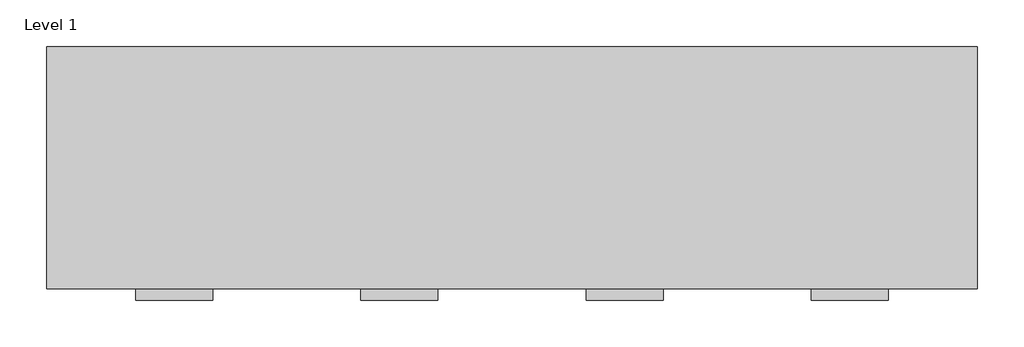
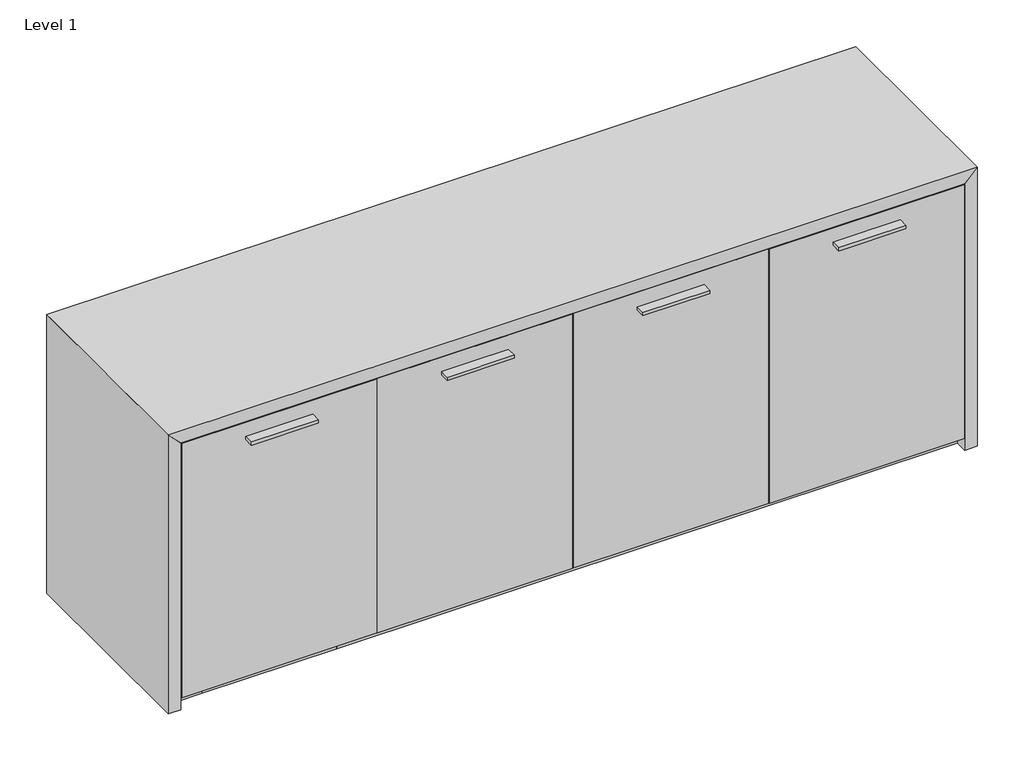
# One storey, incomplete: 18 proxies.
"""IFC4 building model written with IfcOpenShell, lengths in millimetres."""

import ifcopenshell
import ifcopenshell.guid

model = None  # the IFC model being written
_history = None  # IfcOwnerHistory: only IFC2X3 demands one
_inside = {}  # id of a spatial element -> (the spatial element, [elements in it])
_under = {}  # id of a project, library or spatial element -> (it, [spatial elements below it])
_declared = {}  # id of a project -> (the project, [libraries it declares])
_typed = {}  # id of a type object -> (the type object, [elements of that type])
_made_of = {}  # id of a material, layer set ... -> (it, [elements and type objects made of it])


def new_model(schema):
    """Start an empty IFC model of exactly this schema.

    Asked for "IFC4X3", IfcOpenShell would pick the latest addendum, in which some entities
    have other attributes; the version numbers below select the first issue.
    IFC2X3 requires an IfcOwnerHistory on every rooted entity: one is made here for all.
    """
    global model, _history
    if schema == "IFC4X3":
        model = ifcopenshell.file(schema_version=(4, 3, 0, 0))
    else:
        model = ifcopenshell.file(schema=schema)
    _inside.clear()
    _under.clear()
    _declared.clear()
    _typed.clear()
    _made_of.clear()
    _history = None
    if model.schema == "IFC2X3":
        org = make("IfcOrganization", Name="unknown")
        user = make(
            "IfcPersonAndOrganization",
            ThePerson=make("IfcPerson", FamilyName="unknown"),
            TheOrganization=org,
        )
        app = make(
            "IfcApplication",
            ApplicationDeveloper=org,
            Version="unknown",
            ApplicationFullName="unknown",
            ApplicationIdentifier="unknown",
        )
        _history = make(
            "IfcOwnerHistory",
            OwningUser=user,
            OwningApplication=app,
            ChangeAction="ADDED",
            CreationDate=0,
        )
    return model


def make(cls, **values):
    """One entity of the class cls with the attributes given. An attribute that is None is left unset."""
    return model.create_entity(
        cls, **{name: value for name, value in values.items() if value is not None}
    )


def rooted(cls, **values):
    """An entity with a GlobalId (a new one), such as an element, a storey or a relation."""
    return make(cls, GlobalId=ifcopenshell.guid.new(), OwnerHistory=_history, **values)


def si_unit(unit_type, name, prefix=None):
    """IfcSIUnit, for example si_unit("LENGTHUNIT", "METRE", prefix="MILLI")."""
    return make("IfcSIUnit", UnitType=unit_type, Prefix=prefix, Name=name)


def assignment(units):
    """IfcUnitAssignment: the units of a project."""
    return None if units is None else make("IfcUnitAssignment", Units=units)


def point(xyz):
    """IfcCartesianPoint."""
    return None if xyz is None else make("IfcCartesianPoint", Coordinates=xyz)


def direction(xyz):
    """IfcDirection."""
    return None if xyz is None else make("IfcDirection", DirectionRatios=xyz)


def frame(location, z_axis=None, x_axis=None):
    """IfcAxis2Placement3D, a coordinate frame: its origin and axes. An axis left out is left unset."""
    return make(
        "IfcAxis2Placement3D",
        Location=point(location),
        Axis=direction(z_axis),
        RefDirection=direction(x_axis),
    )


def origin():
    """The frame at (0, 0, 0) with its axes left unset."""
    return frame((0.0, 0.0, 0.0))


def origin_with_axes():
    """The frame at (0, 0, 0) with the z axis (0, 0, 1) and the x axis (1, 0, 0) written out."""
    return frame((0.0, 0.0, 0.0), z_axis=(0.0, 0.0, 1.0), x_axis=(1.0, 0.0, 0.0))


def place(relative_to, where):
    """IfcLocalPlacement: puts the frame where relative to a parent placement (None: the world)."""
    return make(
        "IfcLocalPlacement", PlacementRelTo=relative_to, RelativePlacement=where
    )


def context(
    kind, dimensions, precision=None, world=None, true_north=None, identifier=None
):
    """IfcGeometricRepresentationContext, for example the 3D "Model" context."""
    return make(
        "IfcGeometricRepresentationContext",
        ContextIdentifier=identifier,
        ContextType=kind,
        CoordinateSpaceDimension=dimensions,
        Precision=precision,
        WorldCoordinateSystem=world,
        TrueNorth=true_north,
    )


def project(units=None, contexts=None):
    """IfcProject with its units and contexts."""
    return rooted(
        "IfcProject",
        Name="project",
        RepresentationContexts=contexts,
        UnitsInContext=assignment(units),
    )


def spatial(cls, under=None, at=None, **own):
    """A site, building, storey or space (cls), placed at a placement, below another one or the project."""
    s = rooted(cls, ObjectPlacement=at, **own)
    if under is not None:
        _under.setdefault(under.id(), (under, []))[1].append(s)
    return s


def polyline(points):
    """IfcPolyline through the points."""
    return make("IfcPolyline", Points=[point(p) for p in points])


def outline(outer, holes=None, kind="AREA"):
    """IfcArbitraryClosedProfileDef: a profile drawn as a closed curve; with holes, ...WithVoids."""
    if holes is None:
        return make("IfcArbitraryClosedProfileDef", ProfileType=kind, OuterCurve=outer)
    return make(
        "IfcArbitraryProfileDefWithVoids",
        ProfileType=kind,
        OuterCurve=outer,
        InnerCurves=holes,
    )


def extrude(swept, where, along, depth):
    """IfcExtrudedAreaSolid: the profile swept, set in the frame where, extruded along a direction by depth."""
    return make(
        "IfcExtrudedAreaSolid",
        SweptArea=swept,
        Position=where,
        ExtrudedDirection=direction(along),
        Depth=depth,
    )


def shape(context_of_items, identifier, shape_type, items):
    """IfcShapeRepresentation: the items that make up one representation, for example the "Body"."""
    return make(
        "IfcShapeRepresentation",
        ContextOfItems=context_of_items,
        RepresentationIdentifier=identifier,
        RepresentationType=shape_type,
        Items=items,
    )


def source(mapping_origin, context_of_items, identifier, shape_type, items):
    """IfcRepresentationMap: a shape defined once, which mapped items show again and again."""
    return make(
        "IfcRepresentationMap",
        MappingOrigin=mapping_origin,
        MappedRepresentation=shape(context_of_items, identifier, shape_type, items),
    )


def transform(
    local_origin,
    x_axis=None,
    y_axis=None,
    z_axis=None,
    scale=None,
    scale2=None,
    scale3=None,
    uniform=True,
):
    """IfcCartesianTransformationOperator3D, or its non-uniform kind. x_axis, y_axis, z_axis: its Axis1, 2, 3."""
    if uniform:
        return make(
            "IfcCartesianTransformationOperator3D",
            Axis1=direction(x_axis),
            Axis2=direction(y_axis),
            LocalOrigin=point(local_origin),
            Scale=scale,
            Axis3=direction(z_axis),
        )
    return make(
        "IfcCartesianTransformationOperator3DnonUniform",
        Axis1=direction(x_axis),
        Axis2=direction(y_axis),
        LocalOrigin=point(local_origin),
        Scale=scale,
        Axis3=direction(z_axis),
        Scale2=scale2,
        Scale3=scale3,
    )


def mapped(mapping_source, mapping_target):
    """IfcMappedItem: shows the shape of a source again, moved by a transform."""
    return make(
        "IfcMappedItem", MappingSource=mapping_source, MappingTarget=mapping_target
    )


def made_of(thing, what):
    """Note that an element or type object is made of a material, layer set ...; save() writes the relation."""
    if what is not None:
        _made_of.setdefault(what.id(), (what, []))[1].append(thing)
    return thing


def element(
    cls,
    number,
    at=None,
    inside=None,
    cuts=None,
    type_object=None,
    material=None,
    context=None,
    identifier="Body",
    shape_type=None,
    held_by="IfcProductDefinitionShape",
    body=None,
    shapes=None,
    **own,
):
    """One element of the class cls, such as IfcWall. Its Tag is "e" and its number.

    at: its placement. inside: the storey or other place that contains it. cuts: it is an
    opening in that element (IfcRelVoidsElement). A single representation is given by context,
    identifier, shape_type and body (its items); several are given by shapes. held_by: the class
    of the entity that holds the representations. save() writes the other relations.
    """
    e = rooted(cls, Tag="e%d" % number, ObjectPlacement=at, **own)
    if body is not None:
        shapes = [shape(context, identifier, shape_type, body)]
    if shapes is not None:
        e.Representation = make(held_by, Representations=shapes)
    if inside is not None:
        _inside.setdefault(inside.id(), (inside, []))[1].append(e)
    if cuts is not None:
        rooted(
            "IfcRelVoidsElement", RelatingBuildingElement=cuts, RelatedOpeningElement=e
        )
    if type_object is not None:
        _typed.setdefault(type_object.id(), (type_object, []))[1].append(e)
    return made_of(e, material)


def aggregate(whole, parts):
    """IfcRelAggregates: a whole, such as a stair, and the parts it consists of."""
    return rooted("IfcRelAggregates", RelatingObject=whole, RelatedObjects=parts)


def save(model, path):
    """Write the relations noted so far, then the file.

    IfcRelAggregates (storeys below a building ...), IfcRelContainedInSpatialStructure (elements
    in a storey), IfcRelDefinesByType, IfcRelAssociatesMaterial and IfcRelDeclares: one each for
    every whole, place, type object, material and project.
    """
    for whole, parts in _under.values():
        aggregate(whole, parts)
    for where, things in _inside.values():
        rooted(
            "IfcRelContainedInSpatialStructure",
            RelatedElements=things,
            RelatingStructure=where,
        )
    for kind, things in _typed.values():
        rooted("IfcRelDefinesByType", RelatedObjects=things, RelatingType=kind)
    for what, things in _made_of.values():
        rooted("IfcRelAssociatesMaterial", RelatedObjects=things, RelatingMaterial=what)
    for by, libraries in _declared.values():
        rooted("IfcRelDeclares", RelatingContext=by, RelatedDefinitions=libraries)
    model.write(path)


def generic_models_589d0d5f(model_context):
    return source(origin(), model_context, "Body", "SweptSolid", [
        extrude(outline(polyline([(40.48125, 38.1), (40.48125, 848.51875), (628.0546875, 848.51875), (628.0546875, 38.1), (40.48125, 38.1)])), frame((0.0, 0.0, 615.95), z_axis=(0.0, 0.0, 1.0), x_axis=(1.0, 0.0, 0.0)), (0.0, 0.0, 1.0), 19.05),
    ])


def generic_models_8c1c22c7(model_context):
    return source(origin(), model_context, "Body", "SweptSolid", [
        extrude(outline(polyline([(633.4125, 57.15), (614.3625, 57.15), (614.3625, 850.9), (633.4125, 850.9), (633.4125, 57.15)])), frame((0.0, 0.0, 19.05), z_axis=(0.0, 0.0, 1.0), x_axis=(1.0, 0.0, 0.0)), (0.0, 0.0, 1.0), 593.725),
    ])


def generic_models_5ff7c538(model_context):
    return source(origin(), model_context, "Body", "SweptSolid", [
        extrude(outline(polyline([(38.1, 0.0), (38.1, 850.9), (2400.3, 850.9), (2400.3, 0.0), (38.1, 0.0)])), origin_with_axes(), (0.0, 0.0, 1.0), 19.05),
    ])


def generic_models_4b309084(model_context):
    return source(origin(), model_context, "Body", "SweptSolid", [
        extrude(outline(polyline([(630.4359375, 38.1), (630.4359375, 848.51875), (1218.009375, 848.51875), (1218.009375, 38.1), (630.4359375, 38.1)])), frame((0.0, 0.0, 615.95), z_axis=(0.0, 0.0, 1.0), x_axis=(1.0, 0.0, 0.0)), (0.0, 0.0, 1.0), 19.05),
    ])


def generic_models_a942450a(model_context):
    return source(origin(), model_context, "Body", "SweptSolid", [
        extrude(outline(polyline([(1228.725, 57.15), (1209.675, 57.15), (1209.675, 850.9), (1228.725, 850.9), (1228.725, 57.15)])), frame((0.0, 0.0, 19.05), z_axis=(0.0, 0.0, 1.0), x_axis=(1.0, 0.0, 0.0)), (0.0, 0.0, 1.0), 593.725),
    ])


def generic_models_9caf6cdd(model_context):
    return source(origin(), model_context, "Body", "SweptSolid", [
        extrude(outline(polyline([(244.8625, 0.0), (42.8625, 0.0), (42.8625, 10.0), (244.8625, 10.0), (244.8625, 0.0)])), frame((0.0, 0.0, 25.4), z_axis=(0.0, 0.0, 1.0), x_axis=(1.0, 0.0, 0.0)), (0.0, 0.0, 1.0), 30.0),
    ])


def generic_models_82d56803(model_context):
    return source(origin(), model_context, "Body", "SweptSolid", [
        extrude(outline(polyline([(0.0, 889.0), (2438.4, 889.0), (2400.3, 850.9), (38.1, 850.9), (0.0, 889.0)])), origin_with_axes(), (0.0, 0.0, 1.0), 635.0),
    ])


def generic_models_fad23517(model_context):
    return source(origin(), model_context, "Body", "SweptSolid", [
        extrude(outline(polyline([(1824.0375, 57.15), (1804.9875, 57.15), (1804.9875, 850.9), (1824.0375, 850.9), (1824.0375, 57.15)])), frame((0.0, 0.0, 19.05), z_axis=(0.0, 0.0, 1.0), x_axis=(1.0, 0.0, 0.0)), (0.0, 0.0, 1.0), 593.725),
    ])


def generic_models_50e18e38(model_context):
    return source(origin(), model_context, "Body", "SweptSolid", [
        extrude(outline(polyline([(2400.3, 38.1), (38.1, 38.1), (38.1, 57.15), (2400.3, 57.15), (2400.3, 38.1)])), frame((0.0, 0.0, 19.05), z_axis=(0.0, 0.0, 1.0), x_axis=(1.0, 0.0, 0.0)), (0.0, 0.0, 1.0), 593.725),
    ])


def generic_models_ef4a7861(model_context):
    return source(origin(), model_context, "Body", "SweptSolid", [
        extrude(outline(polyline([(529.43125, 0.0), (529.43125, 38.1), (2400.3, 38.1), (2400.3, 0.0), (529.43125, 0.0)])), frame((0.0, 0.0, 19.05), z_axis=(0.0, 0.0, 1.0), x_axis=(1.0, 0.0, 0.0)), (0.0, 0.0, 1.0), 577.85),
        extrude(outline(polyline([(123.03125, 38.1), (123.03125, 0.0), (38.1, 0.0), (38.1, 38.1), (123.03125, 38.1)])), frame((0.0, 0.0, 19.05), z_axis=(0.0, 0.0, 1.0), x_axis=(1.0, 0.0, 0.0)), (0.0, 0.0, 1.0), 577.85),
    ])


def generic_models_5e3a76fd(model_context):
    return source(origin(), model_context, "Body", "SweptSolid", [
        extrude(outline(polyline([(38.1, 0.0), (0.0, 0.0), (0.0, 889.0), (38.1, 850.9), (38.1, 0.0)])), origin_with_axes(), (0.0, 0.0, 1.0), 635.0),
    ])


def generic_models_1c48d9c8(model_context):
    return source(origin(), model_context, "Body", "SweptSolid", [
        extrude(outline(polyline([(1220.390625, 38.1), (1220.390625, 848.51875), (1807.9640625, 848.51875), (1807.9640625, 38.1), (1220.390625, 38.1)])), frame((0.0, 0.0, 615.95), z_axis=(0.0, 0.0, 1.0), x_axis=(1.0, 0.0, 0.0)), (0.0, 0.0, 1.0), 19.05),
    ])


def generic_models_72e80778(model_context):
    return source(origin(), model_context, "Body", "SweptSolid", [
        extrude(outline(polyline([(1810.3453125, 38.1), (1810.3453125, 848.51875), (2397.91875, 848.51875), (2397.91875, 38.1), (1810.3453125, 38.1)])), frame((0.0, 0.0, 615.95), z_axis=(0.0, 0.0, 1.0), x_axis=(1.0, 0.0, 0.0)), (0.0, 0.0, 1.0), 19.05),
    ])


def generic_models_3ca25c78(model_context):
    return source(origin(), model_context, "Body", "SweptSolid", [
        extrude(outline(polyline([(2400.3, 850.9), (2438.4, 889.0), (2438.4, 0.0), (2400.3, 0.0), (2400.3, 850.9)])), origin_with_axes(), (0.0, 0.0, 1.0), 635.0),
    ])


def generic_models_73e0ed49(model_context):
    return source(origin(), model_context, "Body", "SweptSolid", [
        extrude(outline(polyline([(529.43125, 0.0), (123.03125, 0.0), (123.03125, 38.1), (529.43125, 38.1), (529.43125, 0.0)])), frame((0.0, 0.0, 595.38108), z_axis=(0.0, 0.0, 1.0), x_axis=(1.0, 0.0, 0.0)), (0.0, 0.0, 1.0), 1.51892),
    ])


model = new_model("IFC4")

# Units and contexts
model_context = context("Model", 3, world=origin())
ifc_project = project(units=[si_unit("LENGTHUNIT", "METRE", prefix="MILLI")], contexts=[model_context])

# Site, building, storey
site = spatial("IfcSite", under=ifc_project)
building = spatial("IfcBuilding", under=site)
storey = spatial("IfcBuildingStorey", under=building, Name="Level 1", Elevation=0.0)

# Proxies
placement = place(None, origin())
generic_models_shape = generic_models_589d0d5f(model_context)
element("IfcBuildingElementProxy", 1, Name="FOUNDATION^STANDARD CREDENZA_WEBSITE DETAIL-LEFT END DOOR", ObjectType="FOUNDATION^STANDARD CREDENZA_WEBSITE DETAIL-LEFT END DOOR", at=placement, inside=storey, context=model_context, shape_type="MappedRepresentation", body=[
    mapped(generic_models_shape, transform((0.0, 0.0, 0.0), x_axis=(1.0, 0.0, 0.0), y_axis=(0.0, 0.0, 1.0), z_axis=(0.0, -1.0, 0.0))),
])
generic_models_2_shape = generic_models_8c1c22c7(model_context)
element("IfcBuildingElementProxy", 2, Name="FOUNDATION^STANDARD CREDENZA_WEBSITE DETAIL-LEFT PARTITION", ObjectType="FOUNDATION^STANDARD CREDENZA_WEBSITE DETAIL-LEFT PARTITION", at=placement, inside=storey, context=model_context, shape_type="MappedRepresentation", body=[
    mapped(generic_models_2_shape, transform((0.0, 0.0, 0.0), x_axis=(1.0, 0.0, 0.0), y_axis=(0.0, 0.0, 1.0), z_axis=(0.0, -1.0, 0.0))),
])
generic_models_3_shape = generic_models_5ff7c538(model_context)
element("IfcBuildingElementProxy", 3, Name="FOUNDATION^STANDARD CREDENZA_WEBSITE DETAIL-BACK", ObjectType="FOUNDATION^STANDARD CREDENZA_WEBSITE DETAIL-BACK", at=placement, inside=storey, context=model_context, shape_type="MappedRepresentation", body=[
    mapped(generic_models_3_shape, transform((0.0, 0.0, 0.0), x_axis=(1.0, 0.0, 0.0), y_axis=(0.0, 0.0, 1.0), z_axis=(0.0, -1.0, 0.0))),
])
generic_models_4_shape = generic_models_4b309084(model_context)
element("IfcBuildingElementProxy", 4, Name="FOUNDATION^STANDARD CREDENZA_WEBSITE DETAIL-LEFT CTR DOOR", ObjectType="FOUNDATION^STANDARD CREDENZA_WEBSITE DETAIL-LEFT CTR DOOR", at=placement, inside=storey, context=model_context, shape_type="MappedRepresentation", body=[
    mapped(generic_models_4_shape, transform((0.0, 0.0, 0.0), x_axis=(1.0, 0.0, 0.0), y_axis=(0.0, 0.0, 1.0), z_axis=(0.0, -1.0, 0.0))),
])
generic_models_5_shape = generic_models_a942450a(model_context)
element("IfcBuildingElementProxy", 5, Name="FOUNDATION^STANDARD CREDENZA_WEBSITE DETAIL-CENTER PARTITION", ObjectType="FOUNDATION^STANDARD CREDENZA_WEBSITE DETAIL-CENTER PARTITION", at=placement, inside=storey, context=model_context, shape_type="MappedRepresentation", body=[
    mapped(generic_models_5_shape, transform((0.0, 0.0, 0.0), x_axis=(1.0, 0.0, 0.0), y_axis=(0.0, 0.0, 1.0), z_axis=(0.0, -1.0, 0.0))),
])
generic_models_6_shape = generic_models_9caf6cdd(model_context)
element("IfcBuildingElementProxy", 6, Name="SCHWINN-BAR PULL 2334.192", ObjectType="SCHWINN-BAR PULL 2334.192", at=placement, inside=storey, context=model_context, shape_type="MappedRepresentation", body=[
    mapped(generic_models_6_shape, transform((190.4054687, -609.6, 793.27375), x_axis=(1.0, 0.0, 0.0), y_axis=(0.0, 0.0, 1.0), z_axis=(0.0, -1.0, 0.0))),
])
element("IfcBuildingElementProxy", 7, Name="SCHWINN-BAR PULL 2334.192", ObjectType="SCHWINN-BAR PULL 2334.192", at=placement, inside=storey, context=model_context, shape_type="MappedRepresentation", body=[
    mapped(generic_models_6_shape, transform((1960.2695312, -609.6, 793.27375), x_axis=(1.0, 0.0, 0.0), y_axis=(0.0, 0.0, 1.0), z_axis=(0.0, -1.0, 0.0))),
])
element("IfcBuildingElementProxy", 8, Name="SCHWINN-BAR PULL 2334.192", ObjectType="SCHWINN-BAR PULL 2334.192", at=placement, inside=storey, context=model_context, shape_type="MappedRepresentation", body=[
    mapped(generic_models_6_shape, transform((1370.3148437, -609.6, 793.27375), x_axis=(1.0, 0.0, 0.0), y_axis=(0.0, 0.0, 1.0), z_axis=(0.0, -1.0, 0.0))),
])
element("IfcBuildingElementProxy", 9, Name="SCHWINN-BAR PULL 2334.192", ObjectType="SCHWINN-BAR PULL 2334.192", at=placement, inside=storey, context=model_context, shape_type="MappedRepresentation", body=[
    mapped(generic_models_6_shape, transform((780.3601563, -609.6, 793.27375), x_axis=(1.0, 0.0, 0.0), y_axis=(0.0, 0.0, 1.0), z_axis=(0.0, -1.0, 0.0))),
])
generic_models_7_shape = generic_models_82d56803(model_context)
element("IfcBuildingElementProxy", 10, Name="FOUNDATION^STANDARD CREDENZA_WEBSITE DETAIL-TOP", ObjectType="FOUNDATION^STANDARD CREDENZA_WEBSITE DETAIL-TOP", at=placement, inside=storey, context=model_context, shape_type="MappedRepresentation", body=[
    mapped(generic_models_7_shape, transform((0.0, 0.0, 0.0), x_axis=(1.0, 0.0, 0.0), y_axis=(0.0, 0.0, 1.0), z_axis=(0.0, -1.0, 0.0))),
])
generic_models_8_shape = generic_models_fad23517(model_context)
element("IfcBuildingElementProxy", 11, Name="FOUNDATION^STANDARD CREDENZA_WEBSITE DETAIL-RIGHT PARTITION", ObjectType="FOUNDATION^STANDARD CREDENZA_WEBSITE DETAIL-RIGHT PARTITION", at=placement, inside=storey, context=model_context, shape_type="MappedRepresentation", body=[
    mapped(generic_models_8_shape, transform((0.0, 0.0, 0.0), x_axis=(1.0, 0.0, 0.0), y_axis=(0.0, 0.0, 1.0), z_axis=(0.0, -1.0, 0.0))),
])
generic_models_9_shape = generic_models_50e18e38(model_context)
element("IfcBuildingElementProxy", 12, Name="FOUNDATION^STANDARD CREDENZA_WEBSITE DETAIL-BOTTOM", ObjectType="FOUNDATION^STANDARD CREDENZA_WEBSITE DETAIL-BOTTOM", at=placement, inside=storey, context=model_context, shape_type="MappedRepresentation", body=[
    mapped(generic_models_9_shape, transform((0.0, 0.0, 0.0), x_axis=(1.0, 0.0, 0.0), y_axis=(0.0, 0.0, 1.0), z_axis=(0.0, -1.0, 0.0))),
])
generic_models_10_shape = generic_models_ef4a7861(model_context)
element("IfcBuildingElementProxy", 13, Name="FOUNDATION^STANDARD CREDENZA_WEBSITE DETAIL-BASE", ObjectType="FOUNDATION^STANDARD CREDENZA_WEBSITE DETAIL-BASE", at=placement, inside=storey, context=model_context, shape_type="MappedRepresentation", body=[
    mapped(generic_models_10_shape, transform((0.0, 0.0, 0.0), x_axis=(1.0, 0.0, 0.0), y_axis=(0.0, 0.0, 1.0), z_axis=(0.0, -1.0, 0.0))),
])
generic_models_11_shape = generic_models_5e3a76fd(model_context)
element("IfcBuildingElementProxy", 14, Name="FOUNDATION^STANDARD CREDENZA_WEBSITE DETAIL-LEFT END", ObjectType="FOUNDATION^STANDARD CREDENZA_WEBSITE DETAIL-LEFT END", at=placement, inside=storey, context=model_context, shape_type="MappedRepresentation", body=[
    mapped(generic_models_11_shape, transform((0.0, 0.0, 0.0), x_axis=(1.0, 0.0, 0.0), y_axis=(0.0, 0.0, 1.0), z_axis=(0.0, -1.0, 0.0))),
])
generic_models_12_shape = generic_models_1c48d9c8(model_context)
element("IfcBuildingElementProxy", 15, Name="FOUNDATION^STANDARD CREDENZA_WEBSITE DETAIL-RIGHT CTR DOOR", ObjectType="FOUNDATION^STANDARD CREDENZA_WEBSITE DETAIL-RIGHT CTR DOOR", at=placement, inside=storey, context=model_context, shape_type="MappedRepresentation", body=[
    mapped(generic_models_12_shape, transform((0.0, 0.0, 0.0), x_axis=(1.0, 0.0, 0.0), y_axis=(0.0, 0.0, 1.0), z_axis=(0.0, -1.0, 0.0))),
])
generic_models_13_shape = generic_models_72e80778(model_context)
element("IfcBuildingElementProxy", 16, Name="FOUNDATION^STANDARD CREDENZA_WEBSITE DETAIL-RIGHT END DOOR", ObjectType="FOUNDATION^STANDARD CREDENZA_WEBSITE DETAIL-RIGHT END DOOR", at=placement, inside=storey, context=model_context, shape_type="MappedRepresentation", body=[
    mapped(generic_models_13_shape, transform((0.0, 0.0, 0.0), x_axis=(1.0, 0.0, 0.0), y_axis=(0.0, 0.0, 1.0), z_axis=(0.0, -1.0, 0.0))),
])
generic_models_14_shape = generic_models_3ca25c78(model_context)
element("IfcBuildingElementProxy", 17, Name="FOUNDATION^STANDARD CREDENZA_WEBSITE DETAIL-RIGHT END", ObjectType="FOUNDATION^STANDARD CREDENZA_WEBSITE DETAIL-RIGHT END", at=placement, inside=storey, context=model_context, shape_type="MappedRepresentation", body=[
    mapped(generic_models_14_shape, transform((0.0, 0.0, 0.0), x_axis=(1.0, 0.0, 0.0), y_axis=(0.0, 0.0, 1.0), z_axis=(0.0, -1.0, 0.0))),
])
generic_models_15_shape = generic_models_73e0ed49(model_context)
element("IfcBuildingElementProxy", 18, Name="FOUNDATION^STANDARD CREDENZA_WEBSITE DETAIL-VENT GRILL", ObjectType="FOUNDATION^STANDARD CREDENZA_WEBSITE DETAIL-VENT GRILL", at=placement, inside=storey, context=model_context, shape_type="MappedRepresentation", body=[
    mapped(generic_models_15_shape, transform((0.0, 0.0, 0.0), x_axis=(1.0, 0.0, 0.0), y_axis=(0.0, 0.0, 1.0), z_axis=(0.0, -1.0, 0.0))),
])

save(model, "model.ifc")
